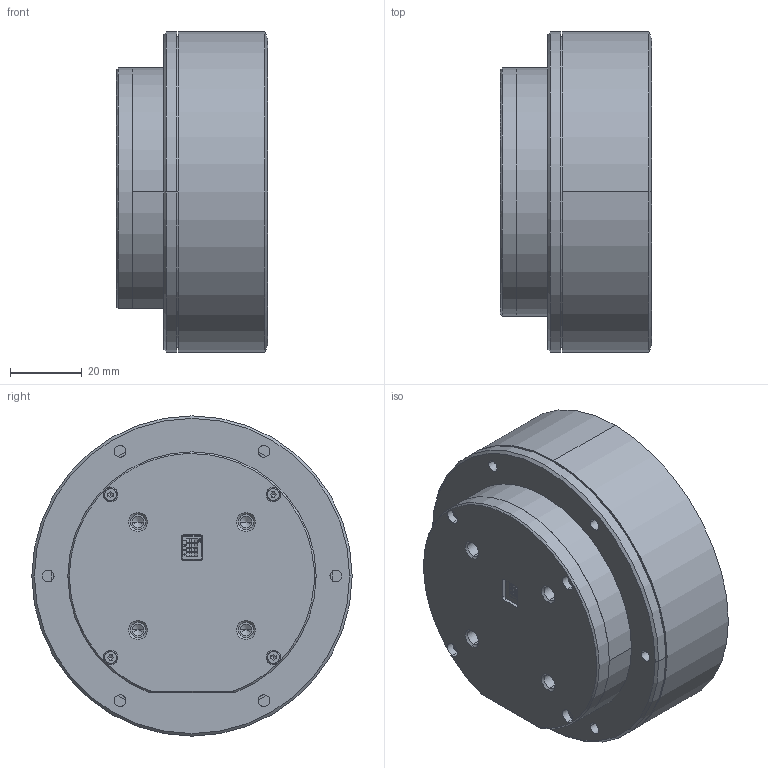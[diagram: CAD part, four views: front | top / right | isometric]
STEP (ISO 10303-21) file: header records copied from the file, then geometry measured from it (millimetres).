
FILE_DESCRIPTION (( 'STEP AP214' ), '1' );
FILE_NAME ('MS9015.STEP', '2023-01-06T09:27:55', ( 'zhang_jianheng@outlook.com' ), ( 'HP' ), 'SwSTEP 2.0', 'SolidWorks 2020', '' );
FILE_SCHEMA (( 'AUTOMOTIVE_DESIGN' ));
Length unit declared in the file: millimetre
Products named in the file (1): MS9015
Bounding box: 42 x 89 x 89 mm (x, y, z)
Surface area: 65107.2 mm2 (no closed solid volume)
Topology: 0 solids, 49 shells, 1535 faces, 3883 edges, 2478 vertices
Faces by surface type: plane 719, cylinder 535, bspline 147, cone 132, torus 2
Entity records: 68193 total; most frequent: CARTESIAN_POINT 14442, ORIENTED_EDGE 7642, DIRECTION 7376, EDGE_CURVE 3823, AXIS2_PLACEMENT_3D 2640, VERTEX_POINT 2478, LINE 2096, VECTOR 2096
